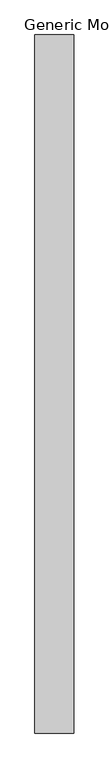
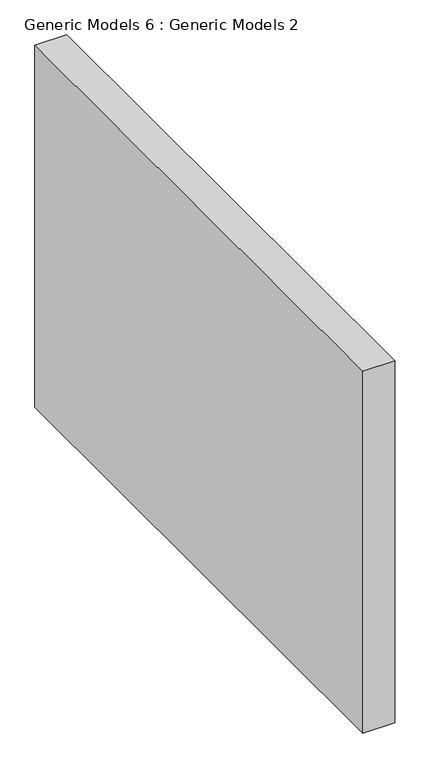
"""IFC4 building model written with IfcOpenShell, lengths in millimetres: proxy geometry, Generic Models 6 : Generic Models 2."""

from ifc_helpers import new_model, si_unit, origin, origin_with_axes, place, context, project, spatial, polyline, outline, extrude, source, transform, mapped, element, save


def generic_models_6_generic_models_2_26afa89b(model_context):
    return source(origin(), model_context, "Body", "SweptSolid", [
        extrude(outline(polyline([(96723.359081, -36437.586633), (96723.359081, -32559.1888995), (96940.0049144, -32559.1888995), (96940.0049144, -36437.586633), (96723.359081, -36437.586633)])), origin_with_axes(), (0.0, 0.0, 1.0), 2610.8419161),
    ])


if __name__ == "__main__":
    model = new_model("IFC4")
    model_context = context("Model", 3, world=origin())
    ifc_project = project(units=[si_unit("LENGTHUNIT", "METRE", prefix="MILLI")], contexts=[model_context])
    site = spatial("IfcSite", under=ifc_project)
    building = spatial("IfcBuilding", under=site)
    placement = place(None, origin())
    generic_models_6_generic_models_2_shape = generic_models_6_generic_models_2_26afa89b(model_context)
    element("IfcBuildingElementProxy", 1, Name="Generic Models 6 : Generic Models 2", ObjectType="Generic Models 6 : Generic Models 2", at=placement, inside=building, context=model_context, shape_type="MappedRepresentation", body=[
        mapped(generic_models_6_generic_models_2_shape, transform((0.0, 0.0, 0.0), x_axis=(1.0, 0.0, 0.0), y_axis=(0.0, 1.0, 0.0), z_axis=(0.0, 0.0, 1.0))),
    ])
    save(model, "model.ifc")
